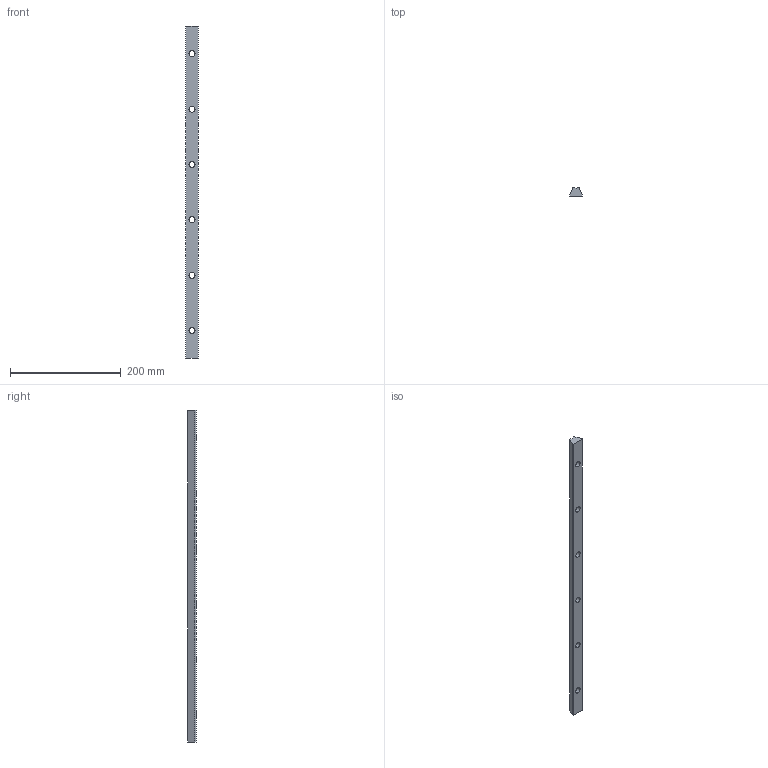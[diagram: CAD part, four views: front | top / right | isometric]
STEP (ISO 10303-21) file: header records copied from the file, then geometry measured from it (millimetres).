
FILE_DESCRIPTION (( 'STEP AP203' ), '1' );
FILE_NAME ('KWU16-30.step', '2020-03-23T07:54:10', ( '' ), ( '' ), 'SwSTEP 2.0', 'SolidWorks 2019', '' );
FILE_SCHEMA (( 'CONFIG_CONTROL_DESIGN' ));
Length unit declared in the file: millimetre
Products named in the file (2): KWU16-30
Bounding box: 23 x 16.01 x 599.5 mm (x, y, z)
Volume: 160143.3 mm3; surface area: 44072.2 mm2
Topology: 1 solids, 1 shells, 33 faces, 87 edges, 50 vertices
Faces by surface type: plane 21, cylinder 12
Entity records: 1160 total; most frequent: CARTESIAN_POINT 244, ORIENTED_EDGE 174, DIRECTION 145, EDGE_CURVE 87, VECTOR 51, LINE 51, VERTEX_POINT 50, AXIS2_PLACEMENT_3D 47
